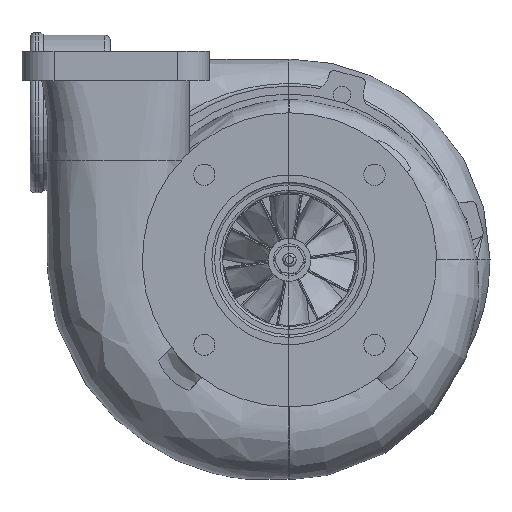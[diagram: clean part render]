
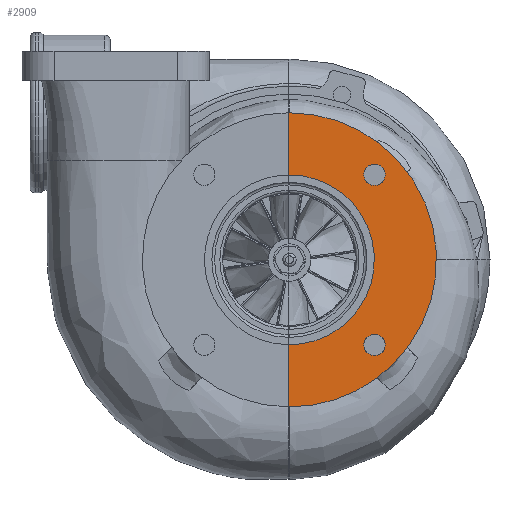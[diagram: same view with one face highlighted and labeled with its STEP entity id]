
A CAD part, front view. The second image highlights one B-rep face of the part: STEP entity #2909.
In plain terms, the highlighted planar face has unit normal (0, -1, 0).
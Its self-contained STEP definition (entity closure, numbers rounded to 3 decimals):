
#2909=ADVANCED_FACE('3:14407',(#7662,#7663,#7664),#7665,.F.);
#7662=FACE_BOUND('',#19190,.T.);
#7663=FACE_BOUND('',#19191,.T.);
#7664=FACE_OUTER_BOUND('',#19192,.T.);
#7665=PLANE('',#19193);
#19190=EDGE_LOOP('',(#261946,#261947));
#19191=EDGE_LOOP('',(#261948,#261949));
#19192=EDGE_LOOP('',(#261950,#261951,#261952,#261953,#261954,#261955));
#19193=AXIS2_PLACEMENT_3D('',#261956,#261957,#261958);
#261946=ORIENTED_EDGE('',*,*,#281275,.T.);
#261947=ORIENTED_EDGE('',*,*,#281276,.T.);
#261948=ORIENTED_EDGE('',*,*,#281277,.T.);
#261949=ORIENTED_EDGE('',*,*,#281278,.T.);
#261950=ORIENTED_EDGE('',*,*,#281279,.F.);
#261951=ORIENTED_EDGE('',*,*,#281280,.F.);
#261952=ORIENTED_EDGE('',*,*,#281281,.F.);
#261953=ORIENTED_EDGE('',*,*,#281282,.F.);
#261954=ORIENTED_EDGE('',*,*,#281283,.T.);
#261955=ORIENTED_EDGE('',*,*,#281284,.T.);
#261956=CARTESIAN_POINT('',(7.254,-114.118,0.218));
#261957=DIRECTION('',(0.0,1.0,0.0));
#261958=DIRECTION('',(1.0,0.0,-0.0));
#281275=EDGE_CURVE('0:9525',#289766,#289767,#289768,.T.);
#281276=EDGE_CURVE('',#289767,#289766,#289769,.T.);
#281277=EDGE_CURVE('0:9531',#289770,#289771,#289772,.T.);
#281278=EDGE_CURVE('',#289771,#289770,#289773,.T.);
#281279=EDGE_CURVE('3:14453',#289774,#289775,#289776,.T.);
#281280=EDGE_CURVE('',#289777,#289774,#289778,.T.);
#281281=EDGE_CURVE('3:14484',#289779,#289777,#289780,.T.);
#281282=EDGE_CURVE('3:14456',#289781,#289779,#289782,.T.);
#281283=EDGE_CURVE('3:14504',#289781,#289783,#289784,.T.);
#281284=EDGE_CURVE('',#289783,#289775,#289785,.T.);
#289766=VERTEX_POINT('NONE',#302885);
#289767=VERTEX_POINT('',#302886);
#289768=CIRCLE('',#302887,4.);
#289769=CIRCLE('',#302888,4.);
#289770=VERTEX_POINT('NONE',#302889);
#289771=VERTEX_POINT('',#302890);
#289772=CIRCLE('',#302891,4.0);
#289773=CIRCLE('',#302892,4.0);
#289774=VERTEX_POINT('',#302893);
#289775=VERTEX_POINT('',#302894);
#289776=LINE('',#302895,#302896);
#289777=VERTEX_POINT('',#302897);
#289778=CIRCLE('',#302898,55.0);
#289779=VERTEX_POINT('',#302899);
#289780=CIRCLE('',#302900,55.0);
#289781=VERTEX_POINT('',#302901);
#289782=LINE('',#302902,#302903);
#289783=VERTEX_POINT('',#302904);
#289784=CIRCLE('',#302905,31.75);
#289785=CIRCLE('',#302906,31.75);
#302885=CARTESIAN_POINT('',(41.903,-114.118,29.209));
#302886=CARTESIAN_POINT('',(36.246,-114.118,34.866));
#302887=AXIS2_PLACEMENT_3D('',#339414,#339415,#339416);
#302888=AXIS2_PLACEMENT_3D('',#339417,#339418,#339419);
#302889=CARTESIAN_POINT('',(41.903,-114.118,-34.431));
#302890=CARTESIAN_POINT('',(36.246,-114.118,-28.774));
#302891=AXIS2_PLACEMENT_3D('',#339420,#339421,#339422);
#302892=AXIS2_PLACEMENT_3D('',#339423,#339424,#339425);
#302893=CARTESIAN_POINT('',(6.804,-114.118,-54.78));
#302894=CARTESIAN_POINT('',(6.804,-114.118,-31.529));
#302895=CARTESIAN_POINT('',(6.804,-114.118,36.468));
#302896=VECTOR('',#339426,1.0);
#302897=CARTESIAN_POINT('',(46.145,-114.118,-38.673));
#302898=AXIS2_PLACEMENT_3D('',#339427,#339428,#339429);
#302899=CARTESIAN_POINT('',(6.804,-114.118,55.216));
#302900=AXIS2_PLACEMENT_3D('',#339430,#339431,#339432);
#302901=CARTESIAN_POINT('',(6.804,-114.118,31.965));
#302902=CARTESIAN_POINT('',(6.804,-114.118,36.468));
#302903=VECTOR('',#339433,1.0);
#302904=CARTESIAN_POINT('',(29.705,-114.118,-22.233));
#302905=AXIS2_PLACEMENT_3D('',#339434,#339435,#339436);
#302906=AXIS2_PLACEMENT_3D('',#339437,#339438,#339439);
#339414=CARTESIAN_POINT('',(39.074,-114.118,32.038));
#339415=DIRECTION('',(0.0,1.0,0.0));
#339416=DIRECTION('',(-0.707,0.0,0.707));
#339417=CARTESIAN_POINT('',(39.074,-114.118,32.038));
#339418=DIRECTION('',(0.0,1.0,0.0));
#339419=DIRECTION('',(-0.707,0.0,0.707));
#339420=CARTESIAN_POINT('',(39.074,-114.118,-31.602));
#339421=DIRECTION('',(0.0,1.0,0.0));
#339422=DIRECTION('',(-0.707,0.0,0.707));
#339423=CARTESIAN_POINT('',(39.074,-114.118,-31.602));
#339424=DIRECTION('',(0.0,1.0,0.0));
#339425=DIRECTION('',(-0.707,0.0,0.707));
#339426=DIRECTION('',(0.,-0.0,1.0));
#339427=CARTESIAN_POINT('',(7.254,-114.118,0.218));
#339428=DIRECTION('',(0.0,1.0,0.0));
#339429=DIRECTION('',(-0.707,0.0,0.707));
#339430=CARTESIAN_POINT('',(7.254,-114.118,0.218));
#339431=DIRECTION('',(0.0,1.0,0.0));
#339432=DIRECTION('',(-0.707,0.0,0.707));
#339433=DIRECTION('',(0.,-0.0,1.0));
#339434=CARTESIAN_POINT('',(7.254,-114.118,0.218));
#339435=DIRECTION('',(0.0,1.0,0.0));
#339436=DIRECTION('',(-0.707,0.0,0.707));
#339437=CARTESIAN_POINT('',(7.254,-114.118,0.218));
#339438=DIRECTION('',(0.0,1.0,0.0));
#339439=DIRECTION('',(-0.707,0.0,0.707));
